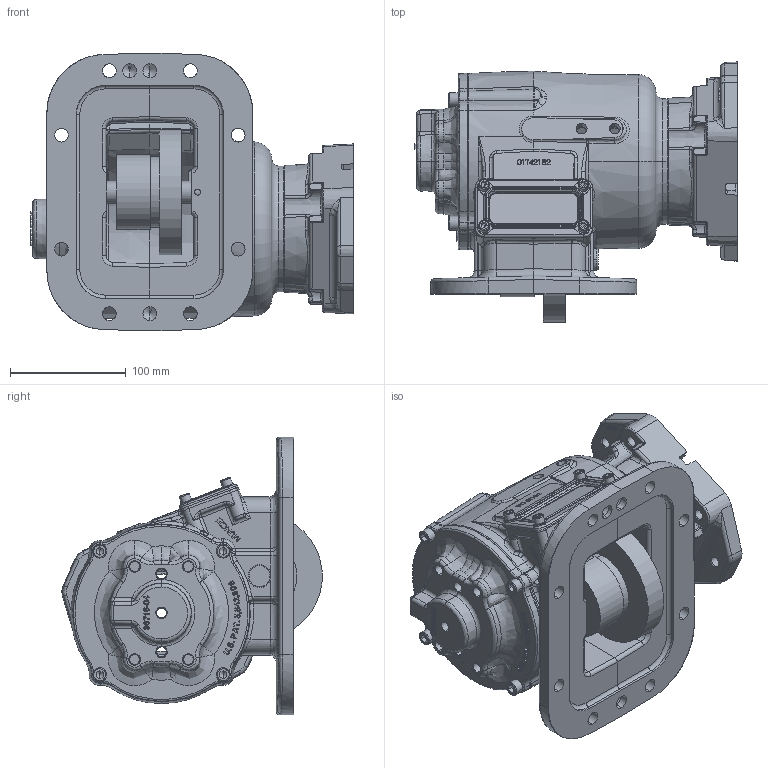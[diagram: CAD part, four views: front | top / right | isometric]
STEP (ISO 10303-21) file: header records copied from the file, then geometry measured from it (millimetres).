
FILE_DESCRIPTION (( 'STEP AP203' ), '1' );
FILE_NAME ('CS8S-XXXXX-X2ZX.STEP', '2012-05-31T15:55:34', ( '' ), ( '' ), 'SwSTEP 2.0', 'SolidWorks 2012', '' );
FILE_SCHEMA (( 'CONFIG_CONTROL_DESIGN' ));
Products named in the file (3): CS8S-XXXXX-X2ZX; 14T38343; CS8S-XXXXX-X2XX
Assembly tree (2 placements, depth 2):
  CS8S-XXXXX-X2ZX
    CS8S-XXXXX-X2XX
    14T38343
Bounding box: 278.14 x 224.56 x 239.61 mm (x, y, z)
Volume: 2037895.8 mm3; surface area: 481996.3 mm2
Topology: 5 solids, 5 shells, 2491 faces, 6380 edges, 3950 vertices
Faces by surface type: bspline 984, plane 682, cylinder 472, cone 269, torus 78, sphere 6
Entity records: 137578 total; most frequent: CARTESIAN_POINT 84297, ORIENTED_EDGE 12580, DIRECTION 8470, EDGE_CURVE 6290, VERTEX_POINT 3950, AXIS2_PLACEMENT_3D 2938, EDGE_LOOP 2728, LINE 2594
